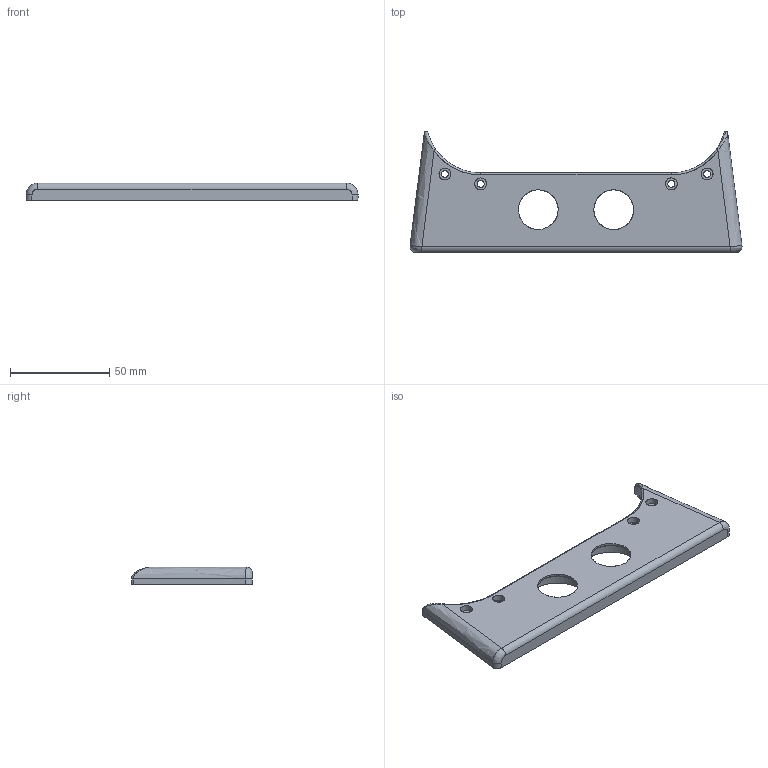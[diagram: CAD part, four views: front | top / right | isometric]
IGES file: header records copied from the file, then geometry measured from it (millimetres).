
Start section: SolidWorks IGES file using analytic representation for surfaces
Global section: file name: C:\Users\holy\Desktop\KRC5FH\GRIP\; native system: Rhinoceros ( Feb 26 2015 ); preprocessor: Trout Lake IGES 012 Feb 26 2015; date: 150529.071220; units: millimetre
Bounding box: 167.2 x 60.85 x 9 mm (x, y, z)
Surface area: 18061.6 mm2 (no closed solid volume)
Topology: 0 solids, 0 shells, 59 faces, 503 edges, 473 vertices
Faces by surface type: bspline 59
